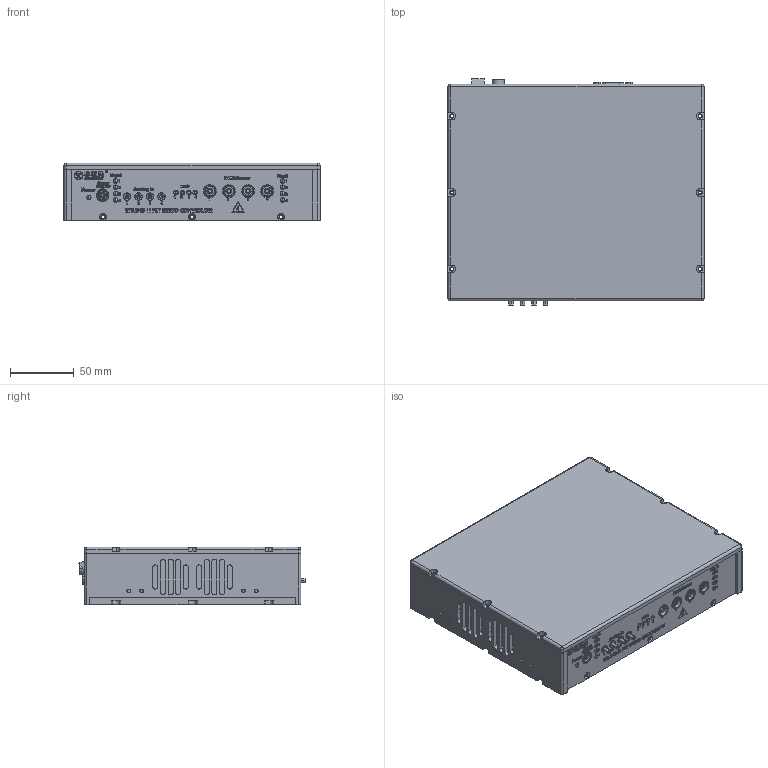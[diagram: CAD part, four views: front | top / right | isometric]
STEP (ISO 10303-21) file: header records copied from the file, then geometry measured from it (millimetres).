
FILE_DESCRIPTION (( 'STEP AP203' ), '1' );
FILE_NAME ('E70.D4S-H蚾饜极.STEP', '2023-10-19T07:50:35', ( 'User' ), ( 'china' ), 'SwSTEP 2.0', 'SolidWorks 2016', '' );
FILE_SCHEMA (( 'CONFIG_CONTROL_DESIGN' ));
Products named in the file (1): E70.D4S-H蚾饜极
Bounding box: 201 x 177.53 x 45.5 mm (x, y, z)
Surface area: 188133.5 mm2 (no closed solid volume)
Topology: 0 solids, 147 shells, 1454 faces, 8489 edges, 7026 vertices
Faces by surface type: plane 744, cylinder 470, bspline 131, cone 72, sphere 24, torus 13
Entity records: 107085 total; most frequent: CARTESIAN_POINT 45460, DIRECTION 11210, ORIENTED_EDGE 10893, EDGE_CURVE 8447, VERTEX_POINT 7008, LINE 4672, VECTOR 4672, AXIS2_PLACEMENT_3D 3269
